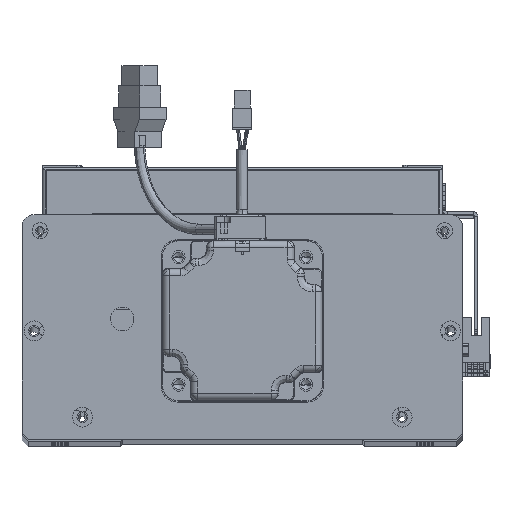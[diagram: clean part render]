
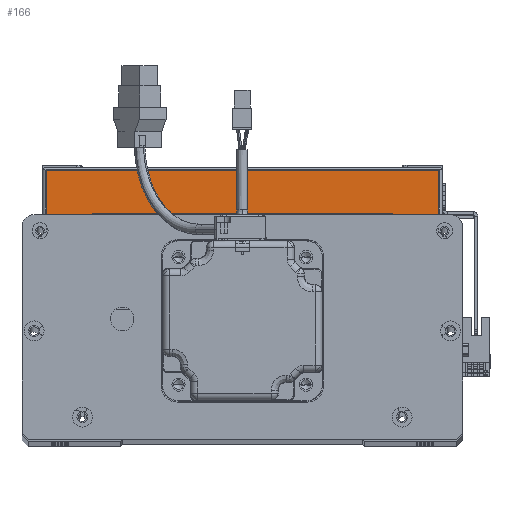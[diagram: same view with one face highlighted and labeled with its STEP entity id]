
A CAD part, top view. The second image highlights one B-rep face of the part: STEP entity #166.
In plain terms, the highlighted planar face has unit normal (0, 0, 1) as drawn and (1, 0, 0) by its records, which use the part's own axes.
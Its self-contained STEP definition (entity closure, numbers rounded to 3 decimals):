
#166 = ADVANCED_FACE ( 'NONE', ( #32852 ), #3119, .F. ) ;
#1593 = CARTESIAN_POINT ( 'NONE',  ( 150., 22.5, 98. ) ) ;
#3119 = PLANE ( 'NONE',  #44119 ) ;
#5698 = CARTESIAN_POINT ( 'NONE',  ( 150., 22.5, -98. ) ) ;
#13277 = VECTOR ( 'NONE', #44180, 1000. ) ;
#14516 = VECTOR ( 'NONE', #50296, 1000. ) ;
#21536 = CARTESIAN_POINT ( 'NONE',  ( 150., 0., -98. ) ) ;
#21610 = DIRECTION ( 'NONE',  ( 0., 1., 0. ) ) ;
#24631 = ORIENTED_EDGE ( 'NONE', *, *, #52419, .T. ) ;
#28789 = CARTESIAN_POINT ( 'NONE',  ( 150., 23.5, 98. ) ) ;
#31243 = EDGE_CURVE ( 'NONE', #48181, #51718, #44516, .T. ) ;
#32852 = FACE_OUTER_BOUND ( 'NONE', #57831, .T. ) ;
#34692 = CARTESIAN_POINT ( 'NONE',  ( 150., 23.5, -100. ) ) ;
#37011 = CARTESIAN_POINT ( 'NONE',  ( 150., 23.5, -98. ) ) ;
#37740 = ORIENTED_EDGE ( 'NONE', *, *, #52138, .T. ) ;
#37807 = CARTESIAN_POINT ( 'NONE',  ( 150., 22.5, 98. ) ) ;
#40516 = DIRECTION ( 'NONE',  ( 0., 0., 1. ) ) ;
#41633 = LINE ( 'NONE', #1593, #13277 ) ;
#41911 = VERTEX_POINT ( 'NONE', #5698 ) ;
#44119 = AXIS2_PLACEMENT_3D ( 'NONE', #34692, #61749, #40516 ) ;
#44180 = DIRECTION ( 'NONE',  ( 0., 0., 1. ) ) ;
#44217 = DIRECTION ( 'NONE',  ( 0., 0., -1. ) ) ;
#44516 = LINE ( 'NONE', #28789, #14516 ) ;
#45907 = VERTEX_POINT ( 'NONE', #21536 ) ;
#48181 = VERTEX_POINT ( 'NONE', #37807 ) ;
#48943 = EDGE_CURVE ( 'NONE', #41911, #48181, #41633, .T. ) ;
#50296 = DIRECTION ( 'NONE',  ( 0., -1., 0. ) ) ;
#51660 = VECTOR ( 'NONE', #21610, 1000. ) ;
#51718 = VERTEX_POINT ( 'NONE', #57358 ) ;
#51728 = LINE ( 'NONE', #66320, #65839 ) ;
#52138 = EDGE_CURVE ( 'NONE', #51718, #45907, #51728, .T. ) ;
#52419 = EDGE_CURVE ( 'NONE', #45907, #41911, #67468, .T. ) ;
#54151 = ORIENTED_EDGE ( 'NONE', *, *, #31243, .T. ) ;
#57358 = CARTESIAN_POINT ( 'NONE',  ( 150., 0., 98. ) ) ;
#57831 = EDGE_LOOP ( 'NONE', ( #24631, #58325, #54151, #37740 ) ) ;
#58325 = ORIENTED_EDGE ( 'NONE', *, *, #48943, .T. ) ;
#61749 = DIRECTION ( 'NONE',  ( -1., 0., 0. ) ) ;
#65839 = VECTOR ( 'NONE', #44217, 1000. ) ;
#66320 = CARTESIAN_POINT ( 'NONE',  ( 150., 0., -100. ) ) ;
#67468 = LINE ( 'NONE', #37011, #51660 ) ;
